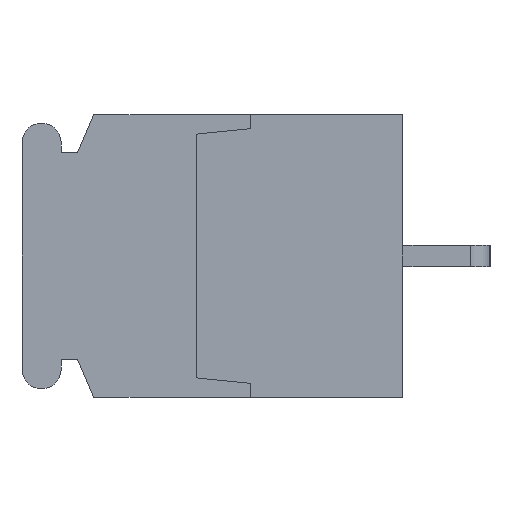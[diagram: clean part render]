
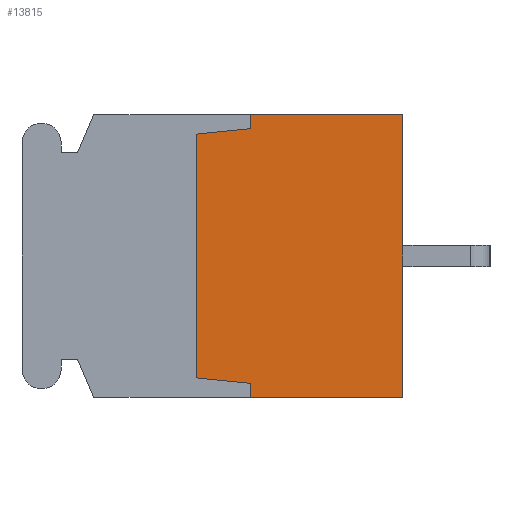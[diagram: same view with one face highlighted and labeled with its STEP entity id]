
A CAD part, left-side view. The second image highlights one B-rep face of the part: STEP entity #13815.
In plain terms, the highlighted planar face has unit normal (-1, 0, 0).
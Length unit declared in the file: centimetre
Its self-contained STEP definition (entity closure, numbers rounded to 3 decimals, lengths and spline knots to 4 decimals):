
#1732=VECTOR('',#16882,1.);
#1733=VECTOR('',#16883,1.);
#1734=VECTOR('',#16884,1.);
#1735=VECTOR('',#16885,1.);
#1736=VECTOR('',#16886,1.);
#1737=VECTOR('',#16887,1.);
#1738=VECTOR('',#16888,1.);
#1739=VECTOR('',#16889,1.);
#3278=LINE('',#21267,#1732);
#3279=LINE('',#21270,#1733);
#3280=LINE('',#21272,#1734);
#3281=LINE('',#21274,#1735);
#3282=LINE('',#21276,#1736);
#3283=LINE('',#21278,#1737);
#3284=LINE('',#21280,#1738);
#3285=LINE('',#21282,#1739);
#4736=VERTEX_POINT('',#21268);
#4737=VERTEX_POINT('',#21269);
#4738=VERTEX_POINT('',#21271);
#4739=VERTEX_POINT('',#21273);
#4740=VERTEX_POINT('',#21275);
#4741=VERTEX_POINT('',#21277);
#4742=VERTEX_POINT('',#21279);
#4743=VERTEX_POINT('',#21281);
#6838=EDGE_CURVE('',#4736,#4737,#3278,.T.);
#6839=EDGE_CURVE('',#4738,#4736,#3279,.T.);
#6840=EDGE_CURVE('',#4739,#4738,#3280,.T.);
#6841=EDGE_CURVE('',#4740,#4739,#3281,.T.);
#6842=EDGE_CURVE('',#4741,#4740,#3282,.T.);
#6843=EDGE_CURVE('',#4742,#4741,#3283,.T.);
#6844=EDGE_CURVE('',#4743,#4742,#3284,.T.);
#6845=EDGE_CURVE('',#4737,#4743,#3285,.T.);
#10354=ORIENTED_EDGE('',*,*,#6838,.F.);
#10355=ORIENTED_EDGE('',*,*,#6839,.F.);
#10356=ORIENTED_EDGE('',*,*,#6840,.F.);
#10357=ORIENTED_EDGE('',*,*,#6841,.F.);
#10358=ORIENTED_EDGE('',*,*,#6842,.F.);
#10359=ORIENTED_EDGE('',*,*,#6843,.F.);
#10360=ORIENTED_EDGE('',*,*,#6844,.F.);
#10361=ORIENTED_EDGE('',*,*,#6845,.F.);
#12155=EDGE_LOOP('',(#10354,#10355,#10356,#10357,#10358,#10359,#10360,#10361));
#13019=FACE_BOUND('',#12155,.T.);
#13815=ADVANCED_FACE('',(#13019),#14451,.F.);
#14451=PLANE('',#23629);
#16881=DIRECTION('',(1.,0.,0.));
#16882=DIRECTION('',(0.,0.,-1.));
#16883=DIRECTION('',(0.,-1.,0.));
#16884=DIRECTION('',(0.,0.,1.));
#16885=DIRECTION('',(0.,-0.995,0.1));
#16886=DIRECTION('',(0.,0.,1.));
#16887=DIRECTION('',(0.,0.995,0.1));
#16888=DIRECTION('',(0.,0.,1.));
#16889=DIRECTION('',(0.,1.,0.));
#21266=CARTESIAN_POINT('',(-1.07,0.4626,0.));
#21267=CARTESIAN_POINT('',(-1.07,0.,0.65));
#21268=CARTESIAN_POINT('',(-1.07,0.,0.65));
#21269=CARTESIAN_POINT('',(-1.07,0.,-0.65));
#21270=CARTESIAN_POINT('',(-1.07,0.7,0.65));
#21271=CARTESIAN_POINT('',(-1.07,0.7,0.65));
#21272=CARTESIAN_POINT('',(-1.07,0.7,0.585));
#21273=CARTESIAN_POINT('',(-1.07,0.7,0.585));
#21274=CARTESIAN_POINT('',(-1.07,0.95,0.56));
#21275=CARTESIAN_POINT('',(-1.07,0.95,0.56));
#21276=CARTESIAN_POINT('',(-1.07,0.95,-0.56));
#21277=CARTESIAN_POINT('',(-1.07,0.95,-0.56));
#21278=CARTESIAN_POINT('',(-1.07,0.7,-0.585));
#21279=CARTESIAN_POINT('',(-1.07,0.7,-0.585));
#21280=CARTESIAN_POINT('',(-1.07,0.7,-0.65));
#21281=CARTESIAN_POINT('',(-1.07,0.7,-0.65));
#21282=CARTESIAN_POINT('',(-1.07,0.,-0.65));
#23629=AXIS2_PLACEMENT_3D('',#21266,#16881,$);
